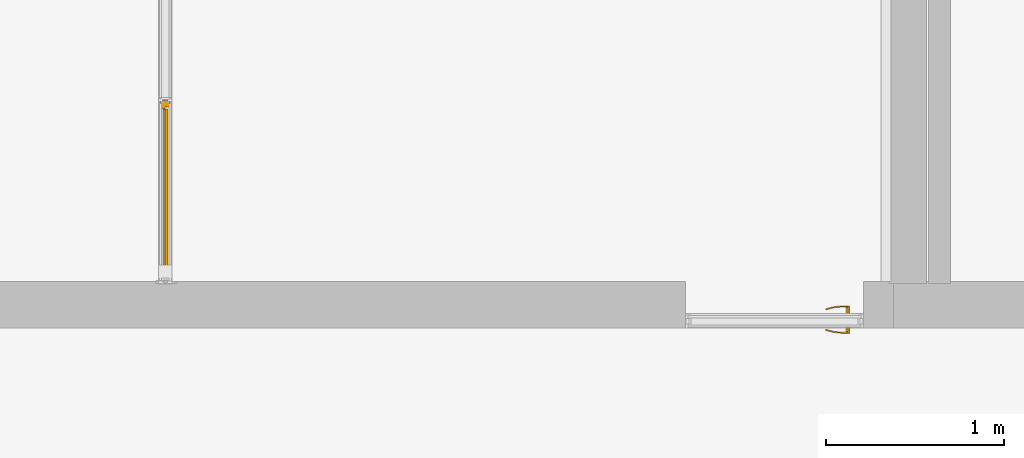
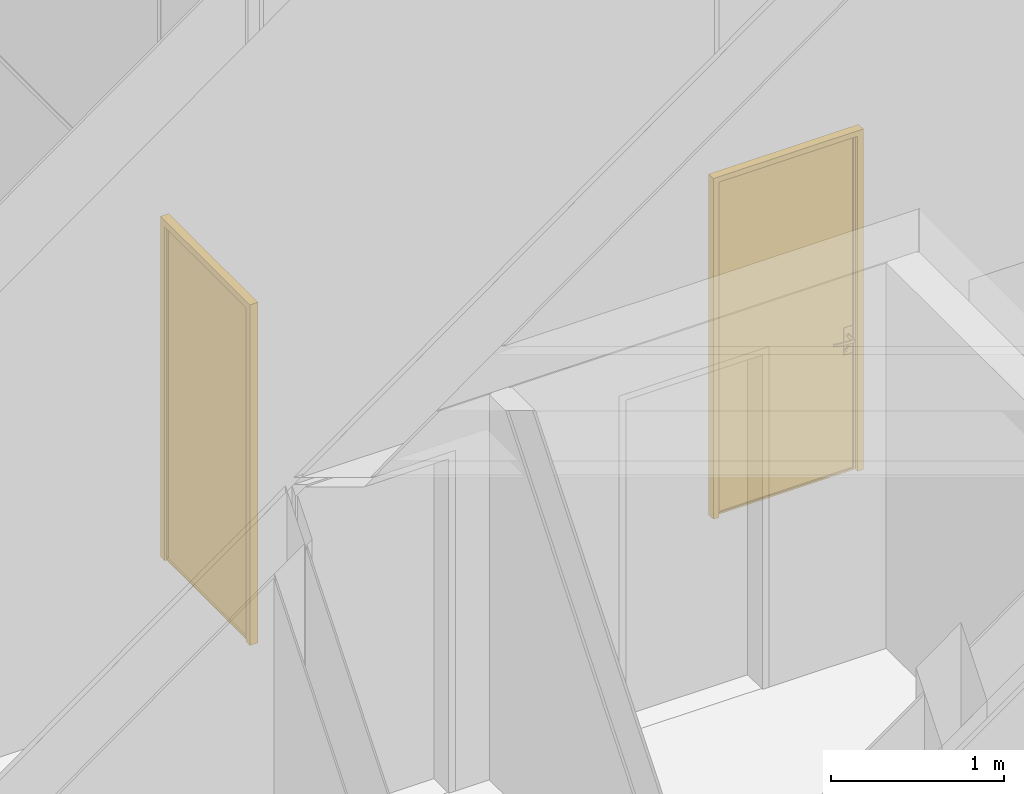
# One storey, part 161 of 246: 2 doors, 2 elements without a shape of their own.
"""IFC2X3 building model written with IfcOpenShell, lengths in millimetres."""

from ifc_helpers import new_model, entity, si_unit, converted_unit, derived_unit, money_unit, direction, frame, origin_with_axes, place, context, subcontext, project, spatial, open_shell, faceted_brep, surface_model, material, material_list, type_object, element, aggregate, save


model = new_model("IFC2X3")

# Units and contexts
model_context = context("Model", 3, precision=0.01, world=origin_with_axes(), true_north=direction((0.0, 1.0)))
body_context = subcontext(model_context, "Body", "Model", "MODEL_VIEW")
ifc_project = project(units=[si_unit("LENGTHUNIT", "METRE", prefix="MILLI"), si_unit("AREAUNIT", "SQUARE_METRE"), si_unit("VOLUMEUNIT", "CUBIC_METRE"), converted_unit("PLANEANGLEUNIT", "DEGREE", entity("IfcPlaneAngleMeasure", 0.0174532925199), si_unit("PLANEANGLEUNIT", "RADIAN"), dimensions=[0, 0, 0, 0, 0, 0, 0]), si_unit("SOLIDANGLEUNIT", "STERADIAN"), money_unit("EUR"), converted_unit("TIMEUNIT", "Year", entity("IfcTimeMeasure", 31556926.0), si_unit("TIMEUNIT", "SECOND"), dimensions=[0, 0, 1, 0, 0, 0, 0]), si_unit("MASSUNIT", "GRAM", prefix="KILO"), si_unit("THERMODYNAMICTEMPERATUREUNIT", "DEGREE_CELSIUS"), si_unit("LUMINOUSINTENSITYUNIT", "LUMEN"), si_unit("ENERGYUNIT", "JOULE", prefix="MEGA"), derived_unit("THERMALCONDUCTANCEUNIT", [(si_unit("POWERUNIT", "WATT"), 1), (si_unit("LENGTHUNIT", "METRE"), -1), (si_unit("THERMODYNAMICTEMPERATUREUNIT", "KELVIN"), -1)]), derived_unit("SPECIFICHEATCAPACITYUNIT", [(si_unit("ENERGYUNIT", "JOULE"), 1), (si_unit("MASSUNIT", "GRAM", prefix="KILO"), -1), (si_unit("THERMODYNAMICTEMPERATUREUNIT", "KELVIN"), -1)]), derived_unit("MASSDENSITYUNIT", [(si_unit("MASSUNIT", "GRAM", prefix="KILO"), 1), (si_unit("VOLUMEUNIT", "CUBIC_METRE"), -1)])], contexts=[model_context])

# Site, building, storey
site_placement = place(None, origin_with_axes())
site = spatial("IfcSite", under=ifc_project, at=site_placement, Name="L.Koidula tn 11b", CompositionType="ELEMENT")
building_placement = place(site_placement, origin_with_axes())
building = spatial("IfcBuilding", under=site, at=building_placement, Name="Rakvere Riigigümnaasium", CompositionType="ELEMENT")
storey_placement = place(building_placement, origin_with_axes())
storey = spatial("IfcBuildingStorey", under=building, at=storey_placement, Name="1.korrus 0,00", CompositionType="ELEMENT", Elevation=0.0)

# Curtain wall, door
curtain_wall_type = type_object("IfcCurtainWallType", Name="Curtain Wall Type", PredefinedType="NOTDEFINED")
curtain_wall_1_placement = place(storey_placement, frame((36265.0251025, 61372.4546496, -0.000126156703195), z_axis=(0.0, 0.0, 1.0), x_axis=(1.0, 0.0, 0.0)))
curtain_wall_1 = element("IfcCurtainWall", 1, at=curtain_wall_1_placement, inside=storey, type_object=curtain_wall_type, Name="SKLF-03")
ifc_material_1 = material(Name="Alumiiniumprofiil")
ifc_material_2 = material(Name="VKR-05_Klaas")
ifc_material_3 = material(Name="ET-07_Teras - Roostevaba")
ifc_material_list_1 = material_list([ifc_material_1, ifc_material_2, ifc_material_3])
door_style_1 = type_object("IfcDoorStyle", Name="Siseklaasfassaad - Klaasuks-Doubleline 1000 x 2385 x -38", ConstructionType="NOTDEFINED", OperationType="NOTDEFINED", ParameterTakesPrecedence=False, Sizeable=False)
door_1_placement = place(curtain_wall_1_placement, frame((0.0, 0.0, 1200.00005437), z_axis=(0.0, 0.0, 1.0), x_axis=(-1.0, 0.0, 0.0)))
door_1 = element("IfcDoor", 2, at=door_1_placement, type_object=door_style_1, material=ifc_material_list_1, Name="Panel-Siseklaasf-002", ObjectType="DOOR", context=body_context, shape_type="SurfaceModel", body=[
    faceted_brep([(-500.0, -35.0, -1200.00005437), (-500.0, -35.0, 1200.00005437), (-500.0, -21.0, 1200.00005437), (-500.0, -21.0, -1200.00005437), (-454.0, -35.0, -1200.00005437), (-454.0, -35.0, 1154.00005437), (-454.0, -21.0, 1154.00005437), (-454.0, -21.0, -1200.00005437)], [[[0, 1, 2, 3]], [[0, 4, 5, 1]], [[1, 5, 6, 2]], [[3, 2, 6, 7]], [[4, 0, 3, 7]], [[5, 4, 7, 6]]]),
    faceted_brep([(500.0, -35.0, 1200.00005437), (454.0, -35.0, 1154.00005437), (454.0, -21.0, 1154.00005437), (500.0, -21.0, 1200.00005437), (-500.0, -35.0, 1200.00005437), (-454.0, -35.0, 1154.00005437), (-454.0, -21.0, 1154.00005437), (-500.0, -21.0, 1200.00005437)], [[[0, 1, 2, 3]], [[0, 4, 5, 1]], [[1, 5, 6, 2]], [[3, 2, 6, 7]], [[4, 0, 3, 7]], [[5, 4, 7, 6]]]),
    faceted_brep([(500.0, -35.0, -1200.00005437), (454.0, -35.0, -1200.00005437), (454.0, -21.0, -1200.00005437), (500.0, -21.0, -1200.00005437), (500.0, -35.0, 1200.00005437), (454.0, -35.0, 1154.00005437), (454.0, -21.0, 1154.00005437), (500.0, -21.0, 1200.00005437)], [[[0, 1, 2, 3]], [[0, 4, 5, 1]], [[1, 5, 6, 2]], [[3, 2, 6, 7]], [[4, 0, 3, 7]], [[5, 4, 7, 6]]]),
    faceted_brep([(-500.0, -21.0, -1200.00005437), (-500.0, -21.0, 1200.00005437), (-500.0, 19.0, 1200.00005437), (-500.0, 19.0, -1200.00005437), (-462.0, -21.0, -1200.00005437), (-462.0, -21.0, 1162.00005437), (-462.0, 19.0, 1162.00005437), (-462.0, 19.0, -1200.00005437)], [[[0, 1, 2, 3]], [[0, 4, 5, 1]], [[1, 5, 6, 2]], [[3, 2, 6, 7]], [[4, 0, 3, 7]], [[5, 4, 7, 6]]]),
    faceted_brep([(500.0, -21.0, 1200.00005437), (462.0, -21.0, 1162.00005437), (462.0, 19.0, 1162.00005437), (500.0, 19.0, 1200.00005437), (-500.0, -21.0, 1200.00005437), (-462.0, -21.0, 1162.00005437), (-462.0, 19.0, 1162.00005437), (-500.0, 19.0, 1200.00005437)], [[[0, 1, 2, 3]], [[0, 4, 5, 1]], [[1, 5, 6, 2]], [[3, 2, 6, 7]], [[4, 0, 3, 7]], [[5, 4, 7, 6]]]),
    faceted_brep([(500.0, -21.0, -1200.00005437), (462.0, -21.0, -1200.00005437), (462.0, 19.0, -1200.00005437), (500.0, 19.0, -1200.00005437), (500.0, -21.0, 1200.00005437), (462.0, -21.0, 1162.00005437), (462.0, 19.0, 1162.00005437), (500.0, 19.0, 1200.00005437)], [[[0, 1, 2, 3]], [[0, 4, 5, 1]], [[1, 5, 6, 2]], [[3, 2, 6, 7]], [[4, 0, 3, 7]], [[5, 4, 7, 6]]]),
    faceted_brep([(-500.0, -19.0, 1200.00005437), (500.0, -19.0, 1200.00005437), (500.0, 19.0, 1200.00005437), (-500.0, 19.0, 1200.00005437), (-500.000009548, -19.0, 1185.00005369), (500.0, -19.0, 1185.00005369), (500.0, 19.0, 1185.00005369), (-500.000009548, 19.0, 1185.00005369)], [[[0, 1, 2, 3]], [[0, 4, 5, 1]], [[1, 5, 6, 2]], [[3, 2, 6, 7]], [[4, 0, 3, 7]], [[5, 4, 7, 6]]]),
    faceted_brep([(450.0, -21.0, -1188.00005437), (450.0, -21.0, 1150.00005437), (450.0, -9.0, 1150.00005437), (450.0, -9.0, -1188.00005437), (462.0, -21.0, -1200.00005437), (462.0, -21.0, 1162.00005437), (462.0, -9.0, 1162.00005437), (462.0, -9.0, -1200.00005437)], [[[0, 1, 2, 3]], [[0, 4, 5, 1]], [[1, 5, 6, 2]], [[3, 2, 6, 7]], [[4, 0, 3, 7]], [[5, 4, 7, 6]]]),
    faceted_brep([(-462.0, -21.0, -1200.00005437), (-462.0, -21.0, 1162.00005437), (-462.0, -9.0, 1162.00005437), (-462.0, -9.0, -1200.00005437), (-450.0, -21.0, -1188.00005437), (-450.0, -21.0, 1150.00005437), (-450.0, -9.0, 1150.00005437), (-450.0, -9.0, -1188.00005437)], [[[0, 1, 2, 3]], [[0, 4, 5, 1]], [[1, 5, 6, 2]], [[3, 2, 6, 7]], [[4, 0, 3, 7]], [[5, 4, 7, 6]]]),
    faceted_brep([(-462.0, -21.0, -1200.00005437), (-450.0, -21.0, -1188.00005437), (-450.0, -9.0, -1188.00005437), (-462.0, -9.0, -1200.00005437), (462.0, -21.0, -1200.00005437), (450.0, -21.0, -1188.00005437), (450.0, -9.0, -1188.00005437), (462.0, -9.0, -1200.00005437)], [[[0, 1, 2, 3]], [[0, 4, 5, 1]], [[1, 5, 6, 2]], [[3, 2, 6, 7]], [[4, 0, 3, 7]], [[5, 4, 7, 6]]]),
    faceted_brep([(462.0, -21.0, 1162.00005437), (450.0, -21.0, 1150.00005437), (450.0, -9.0, 1150.00005437), (462.0, -9.0, 1162.00005437), (-462.0, -21.0, 1162.00005437), (-450.0, -21.0, 1150.00005437), (-450.0, -9.0, 1150.00005437), (-462.0, -9.0, 1162.00005437)], [[[0, 1, 2, 3]], [[0, 4, 5, 1]], [[1, 5, 6, 2]], [[3, 2, 6, 7]], [[4, 0, 3, 7]], [[5, 4, 7, 6]]]),
    faceted_brep([(450.0, -35.0, -1188.00005437), (-450.0, -35.0, -1188.00005437), (-450.0, -19.0, -1188.00005437), (450.0, -19.0, -1188.00005437), (450.0, -35.0, 1150.00005437), (-450.0, -35.0, 1150.00005437), (-450.0, -19.0, 1150.00005437), (450.0, -19.0, 1150.00005437)], [[[0, 1, 2, 3]], [[0, 4, 5, 1]], [[1, 5, 6, 2]], [[3, 2, 6, 7]], [[4, 0, 3, 7]], [[5, 4, 7, 6]]]),
    faceted_brep([(-440.5, -9.0, -178.000054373), (-383.5, -9.0, -178.000054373), (-383.5, -6.0, -178.000054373), (-440.5, -6.0, -178.000054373), (-440.5, -9.0, -368.000054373), (-383.5, -9.0, -368.000054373), (-383.5, -6.0, -368.000054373), (-440.5, -6.0, -368.000054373)], [[[0, 1, 2, 3]], [[0, 4, 5, 1]], [[1, 5, 6, 2]], [[3, 2, 6, 7]], [[4, 0, 3, 7]], [[5, 4, 7, 6]]]),
    surface_model("IfcShellBasedSurfaceModel", [(-412.0, 55.0, -248.000054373), (-420.660254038, 55.0, -243.000054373), (-420.660254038, 62.0, -243.000054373), (-412.0, 62.0, -248.000054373), (-387.0, 55.0, -248.000054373), (-387.0, 55.0, -228.000054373), (-412.0, 55.0, -228.000054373), (-420.660254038, 55.0, -233.000054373), (-420.660254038, 62.0, -233.000054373), (-412.0, 62.0, -228.000054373), (-387.0, 62.0, -228.000054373), (-387.0, 62.0, -248.000054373)], [open_shell([[[0, 1, 2, 3]], [[0, 4, 5, 6, 7, 1]], [[1, 7, 8, 2]], [[3, 2, 8, 9, 10, 11]], [[4, 0, 3, 11]], [[6, 5, 10, 9]], [[7, 6, 9, 8]]])]),
    surface_model("IfcShellBasedSurfaceModel", [(-387.0, 55.0, -228.000054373), (-373.901717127, 55.0, -228.392753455), (-373.596090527, 62.0, -228.392753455), (-387.0, 55.0, -248.000054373), (-373.901717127, 55.0, -247.607355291), (-346.890283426, 59.6635446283, -229.178151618), (-387.0, 62.0, -228.000054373), (-387.0, 62.0, -248.000054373), (-347.804837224, 52.716818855, -246.821957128), (-347.804837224, 52.716818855, -229.178151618), (-346.890283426, 59.6635446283, -246.821957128), (-373.596090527, 62.0, -247.607355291), (-322.006256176, 48.1678329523, -246.036558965), (-322.006256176, 48.1678329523, -229.963549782), (-320.489735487, 55.0084157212, -229.963549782), (-320.489735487, 55.0084157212, -246.036558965), (-296.702316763, 41.3876628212, -245.251160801), (-296.702316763, 41.3876628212, -230.748947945), (-294.59537082, 48.0700416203, -230.748947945), (-294.59537082, 48.0700416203, -245.251160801), (-288.829442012, 38.5221707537, -245.000054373), (-288.829442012, 38.5221707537, -231.000054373), (-286.538795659, 45.1376880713, -231.000054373), (-286.538795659, 45.1376880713, -245.000054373)], [open_shell([[[0, 1, 2]], [[0, 3, 4, 1]], [[1, 5, 2]], [[0, 2, 6]], [[4, 3, 7]], [[1, 4, 8, 9]], [[1, 9, 5]], [[2, 5, 10, 11]], [[6, 2, 11, 7]], [[4, 7, 11]], [[8, 4, 11]], [[9, 8, 12, 13]], [[9, 14, 5]], [[5, 14, 15, 10]], [[8, 11, 10]], [[12, 8, 10]], [[13, 12, 16, 17]], [[9, 13, 14]], [[14, 18, 19, 15]], [[12, 10, 15]], [[16, 12, 15]], [[17, 16, 20, 21]], [[13, 17, 18]], [[13, 18, 14]], [[18, 22, 23, 19]], [[16, 15, 19]], [[20, 16, 19]], [[21, 20, 23, 22]], [[17, 21, 22]], [[17, 22, 18]], [[20, 19, 23]]])]),
    faceted_brep([(-408.291796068, 4.0, -249.412732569), (-400.0, 4.0, -238.000054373), (-399.0, -6.0, -238.000054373), (-407.982779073, -6.0, -250.363789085), (-421.708203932, 4.0, -245.053477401), (-421.708203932, 4.0, -230.946631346), (-408.291796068, 4.0, -226.587376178), (-407.982779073, -6.0, -225.636319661), (-422.517220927, -6.0, -230.358846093), (-422.517220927, -6.0, -245.641262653)], [[[0, 1, 2, 3]], [[1, 0, 4, 5, 6]], [[1, 6, 7, 2]], [[2, 7, 8, 9, 3]], [[4, 0, 3, 9]], [[5, 4, 9, 8]], [[6, 5, 8, 7]]]),
    faceted_brep([(-405.819660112, -2.0, -352.021184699), (-392.0, -2.0, -333.000054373), (-390.0, -6.0, -333.000054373), (-405.201626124, -6.0, -353.923297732), (-428.180339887, -2.0, -344.755759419), (-428.180339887, -2.0, -321.244349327), (-405.819660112, -2.0, -313.978924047), (-405.201626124, -6.0, -312.076811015), (-429.798373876, -6.0, -320.068778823), (-429.798373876, -6.0, -345.931329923)], [[[0, 1, 2, 3]], [[1, 0, 4, 5, 6]], [[1, 6, 7, 2]], [[2, 7, 8, 9, 3]], [[4, 0, 3, 9]], [[5, 4, 9, 8]], [[6, 5, 8, 7]]]),
    faceted_brep([(-409.836881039, 0.0, -330.657449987), (-405.0, 0.0, -324.000054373), (-404.0, -2.0, -324.000054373), (-409.527864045, -2.0, -331.608506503), (-417.663118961, 0.0, -328.114551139), (-417.663118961, 0.0, -319.885557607), (-409.836881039, 0.0, -317.342658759), (-409.527864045, -2.0, -316.391602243), (-418.472135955, -2.0, -319.297772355), (-418.472135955, -2.0, -328.702336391)], [[[0, 1, 2, 3]], [[1, 0, 4, 5, 6]], [[1, 6, 7, 2]], [[2, 7, 8, 9, 3]], [[4, 0, 3, 9]], [[5, 4, 9, 8]], [[6, 5, 8, 7]]]),
    faceted_brep([(-412.0, 4.0, -228.000054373), (-402.489434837, 4.0, -234.909884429), (-402.489434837, 55.0, -234.909884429), (-412.0, 55.0, -228.000054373), (-421.510565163, 4.0, -234.909884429), (-417.877852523, 4.0, -246.090224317), (-406.122147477, 4.0, -246.090224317), (-406.122147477, 55.0, -246.090224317), (-417.877852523, 55.0, -246.090224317), (-421.510565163, 55.0, -234.909884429)], [[[0, 1, 2, 3]], [[0, 4, 5, 6, 1]], [[1, 6, 7, 2]], [[3, 2, 7, 8, 9]], [[4, 0, 3, 9]], [[5, 4, 9, 8]], [[6, 5, 8, 7]]]),
    faceted_brep([(-440.5, -21.0, -178.000054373), (-440.5, -24.0, -178.000054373), (-383.5, -24.0, -178.000054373), (-383.5, -21.0, -178.000054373), (-440.5, -21.0, -368.000054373), (-440.5, -24.0, -368.000054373), (-383.5, -24.0, -368.000054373), (-383.5, -21.0, -368.000054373)], [[[0, 1, 2, 3]], [[4, 5, 1, 0]], [[1, 5, 6, 2]], [[3, 2, 6, 7]], [[0, 3, 7, 4]], [[7, 6, 5, 4]]]),
    surface_model("IfcShellBasedSurfaceModel", [(-412.0, -85.0, -248.000054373), (-412.0, -92.0, -248.000054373), (-420.660254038, -92.0, -243.000054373), (-420.660254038, -85.0, -243.000054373), (-387.0, -85.0, -248.000054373), (-387.0, -92.0, -248.000054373), (-387.0, -92.0, -228.000054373), (-412.0, -92.0, -228.000054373), (-420.660254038, -92.0, -233.000054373), (-420.660254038, -85.0, -233.000054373), (-412.0, -85.0, -228.000054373), (-387.0, -85.0, -228.000054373)], [open_shell([[[0, 1, 2, 3]], [[4, 5, 1, 0]], [[1, 5, 6, 7, 8, 2]], [[3, 2, 8, 9]], [[0, 3, 9, 10, 11, 4]], [[10, 7, 6, 11]], [[9, 8, 7, 10]]])]),
    surface_model("IfcShellBasedSurfaceModel", [(-387.0, -85.0, -228.000054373), (-373.596090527, -92.0, -228.392753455), (-373.901717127, -85.0, -228.392753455), (-387.0, -92.0, -228.000054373), (-346.890283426, -89.6635446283, -229.178151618), (-373.901717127, -85.0, -247.607355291), (-387.0, -85.0, -248.000054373), (-387.0, -92.0, -248.000054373), (-373.596090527, -92.0, -247.607355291), (-346.890283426, -89.6635446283, -246.821957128), (-347.804837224, -82.716818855, -229.178151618), (-347.804837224, -82.716818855, -246.821957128), (-320.489735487, -85.0084157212, -246.036558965), (-320.489735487, -85.0084157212, -229.963549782), (-322.006256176, -78.1678329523, -229.963549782), (-322.006256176, -78.1678329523, -246.036558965), (-294.59537082, -78.0700416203, -245.251160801), (-294.59537082, -78.0700416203, -230.748947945), (-296.702316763, -71.3876628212, -230.748947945), (-296.702316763, -71.3876628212, -245.251160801), (-286.538795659, -75.1376880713, -245.000054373), (-286.538795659, -75.1376880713, -231.000054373), (-288.829442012, -68.5221707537, -231.000054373), (-288.829442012, -68.5221707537, -245.000054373)], [open_shell([[[0, 1, 2]], [[0, 3, 1]], [[2, 1, 4]], [[0, 2, 5, 6]], [[3, 7, 8, 1]], [[1, 8, 9, 4]], [[2, 4, 10]], [[2, 10, 11, 5]], [[5, 7, 6]], [[5, 8, 7]], [[11, 9, 8]], [[4, 9, 12, 13]], [[10, 4, 13]], [[10, 14, 15, 11]], [[11, 8, 5]], [[15, 9, 11]], [[15, 12, 9]], [[13, 12, 16, 17]], [[10, 13, 14]], [[14, 18, 19, 15]], [[19, 12, 15]], [[19, 16, 12]], [[17, 16, 20, 21]], [[14, 13, 17]], [[14, 17, 18]], [[18, 22, 23, 19]], [[23, 16, 19]], [[23, 20, 16]], [[22, 21, 20, 23]], [[18, 17, 21]], [[18, 21, 22]]])]),
    faceted_brep([(-408.291796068, -34.0, -249.412732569), (-407.982779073, -24.0, -250.363789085), (-399.0, -24.0, -238.000054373), (-400.0, -34.0, -238.000054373), (-421.708203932, -34.0, -245.053477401), (-422.517220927, -24.0, -245.641262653), (-422.517220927, -24.0, -230.358846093), (-407.982779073, -24.0, -225.636319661), (-408.291796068, -34.0, -226.587376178), (-421.708203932, -34.0, -230.946631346)], [[[0, 1, 2, 3]], [[4, 5, 1, 0]], [[2, 1, 5, 6, 7]], [[3, 2, 7, 8]], [[3, 8, 9, 4, 0]], [[9, 6, 5, 4]], [[8, 7, 6, 9]]]),
    faceted_brep([(-405.819660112, -28.0, -352.021184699), (-405.201626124, -24.0, -353.923297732), (-390.0, -24.0, -333.000054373), (-392.0, -28.0, -333.000054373), (-428.180339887, -28.0, -344.755759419), (-429.798373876, -24.0, -345.931329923), (-429.798373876, -24.0, -320.068778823), (-405.201626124, -24.0, -312.076811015), (-405.819660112, -28.0, -313.978924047), (-428.180339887, -28.0, -321.244349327)], [[[0, 1, 2, 3]], [[4, 5, 1, 0]], [[2, 1, 5, 6, 7]], [[3, 2, 7, 8]], [[3, 8, 9, 4, 0]], [[9, 6, 5, 4]], [[8, 7, 6, 9]]]),
    faceted_brep([(-409.836881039, -30.0, -330.657449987), (-409.527864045, -28.0, -331.608506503), (-404.0, -28.0, -324.000054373), (-405.0, -30.0, -324.000054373), (-417.663118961, -30.0, -328.114551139), (-418.472135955, -28.0, -328.702336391), (-418.472135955, -28.0, -319.297772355), (-409.527864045, -28.0, -316.391602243), (-409.836881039, -30.0, -317.342658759), (-417.663118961, -30.0, -319.885557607)], [[[0, 1, 2, 3]], [[4, 5, 1, 0]], [[2, 1, 5, 6, 7]], [[3, 2, 7, 8]], [[3, 8, 9, 4, 0]], [[9, 6, 5, 4]], [[8, 7, 6, 9]]]),
    faceted_brep([(-412.0, -34.0, -228.000054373), (-412.0, -85.0, -228.000054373), (-402.489434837, -85.0, -234.909884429), (-402.489434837, -34.0, -234.909884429), (-421.510565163, -34.0, -234.909884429), (-421.510565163, -85.0, -234.909884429), (-417.877852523, -85.0, -246.090224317), (-406.122147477, -85.0, -246.090224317), (-406.122147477, -34.0, -246.090224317), (-417.877852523, -34.0, -246.090224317)], [[[0, 1, 2, 3]], [[4, 5, 1, 0]], [[1, 5, 6, 7, 2]], [[3, 2, 7, 8]], [[0, 3, 8, 9, 4]], [[9, 6, 5, 4]], [[8, 7, 6, 9]]]),
])
aggregate(curtain_wall_1, [door_1])

curtain_wall_2_placement = place(storey_placement, frame((32835.0202258, 67589.2016838, 0.0), z_axis=(0.0, 0.0, 1.0), x_axis=(1.0, 0.0, 0.0)))
curtain_wall_2 = element("IfcCurtainWall", 3, at=curtain_wall_2_placement, inside=storey, type_object=curtain_wall_type, Name="SKLF-02")
ifc_material_list_2 = material_list([ifc_material_1, ifc_material_2])
door_style_2 = type_object("IfcDoorStyle", Name="1030 x 2385 x -5", ConstructionType="NOTDEFINED", OperationType="NOTDEFINED", ParameterTakesPrecedence=False, Sizeable=False)
door_2_placement = place(curtain_wall_2_placement, frame((0.0, -5483.75, 1200.0), z_axis=(0.0, 0.0, 1.0), x_axis=(0.0, 1.0, 0.0)))
door_2 = element("IfcDoor", 4, at=door_2_placement, type_object=door_style_2, material=ifc_material_list_2, Name="Panel-Siseklaasf-002", ObjectType="DOOR", context=body_context, shape_type="Brep", body=[
    faceted_brep([(-515.0, 7.5, -1200.0), (-515.0, 7.5, 1200.0), (-515.0, 21.5, 1200.0), (-515.0, 21.5, -1200.0), (-469.0, 7.5, -1200.0), (-469.0, 7.5, 1154.0), (-469.0, 21.5, 1154.0), (-469.0, 21.5, -1200.0)], [[[0, 1, 2, 3]], [[0, 4, 5, 1]], [[1, 5, 6, 2]], [[3, 2, 6, 7]], [[4, 0, 3, 7]], [[5, 4, 7, 6]]]),
    faceted_brep([(515.0, 7.5, 1200.0), (469.0, 7.5, 1154.0), (469.0, 21.5, 1154.0), (515.0, 21.5, 1200.0), (-515.0, 7.5, 1200.0), (-469.0, 7.5, 1154.0), (-469.0, 21.5, 1154.0), (-515.0, 21.5, 1200.0)], [[[0, 1, 2, 3]], [[0, 4, 5, 1]], [[1, 5, 6, 2]], [[3, 2, 6, 7]], [[4, 0, 3, 7]], [[5, 4, 7, 6]]]),
    faceted_brep([(515.0, 7.5, -1200.0), (469.0, 7.5, -1200.0), (469.0, 21.5, -1200.0), (515.0, 21.5, -1200.0), (515.0, 7.5, 1200.0), (469.0, 7.5, 1154.0), (469.0, 21.5, 1154.0), (515.0, 21.5, 1200.0)], [[[0, 1, 2, 3]], [[0, 4, 5, 1]], [[1, 5, 6, 2]], [[3, 2, 6, 7]], [[4, 0, 3, 7]], [[5, 4, 7, 6]]]),
    faceted_brep([(-515.0, -32.5, -1200.0), (-515.0, -32.5, 1200.0), (-515.0, 7.5, 1200.0), (-515.0, 7.5, -1200.0), (-477.0, -32.5, -1200.0), (-477.0, -32.5, 1162.0), (-477.0, 7.5, 1162.0), (-477.0, 7.5, -1200.0)], [[[0, 1, 2, 3]], [[0, 4, 5, 1]], [[1, 5, 6, 2]], [[3, 2, 6, 7]], [[4, 0, 3, 7]], [[5, 4, 7, 6]]]),
    faceted_brep([(515.0, -32.5, 1200.0), (477.0, -32.5, 1162.0), (477.0, 7.5, 1162.0), (515.0, 7.5, 1200.0), (-515.0, -32.5, 1200.0), (-477.0, -32.5, 1162.0), (-477.0, 7.5, 1162.0), (-515.0, 7.5, 1200.0)], [[[0, 1, 2, 3]], [[0, 4, 5, 1]], [[1, 5, 6, 2]], [[3, 2, 6, 7]], [[4, 0, 3, 7]], [[5, 4, 7, 6]]]),
    faceted_brep([(515.0, -32.5, -1200.0), (477.0, -32.5, -1200.0), (477.0, 7.5, -1200.0), (515.0, 7.5, -1200.0), (515.0, -32.5, 1200.0), (477.0, -32.5, 1162.0), (477.0, 7.5, 1162.0), (515.0, 7.5, 1200.0)], [[[0, 1, 2, 3]], [[0, 4, 5, 1]], [[1, 5, 6, 2]], [[3, 2, 6, 7]], [[4, 0, 3, 7]], [[5, 4, 7, 6]]]),
    faceted_brep([(-515.0, -2.5, 1200.0), (515.0, -2.5, 1200.0), (515.0, 2.5, 1200.0), (-515.0, 2.5, 1200.0), (-515.0, -2.5, 1185.0), (515.0, -2.5, 1185.0), (515.0, 2.5, 1185.0), (-515.0, 2.5, 1185.0)], [[[0, 1, 2, 3]], [[0, 4, 5, 1]], [[1, 5, 6, 2]], [[3, 2, 6, 7]], [[4, 0, 3, 7]], [[5, 4, 7, 6]]]),
    faceted_brep([(465.0, 7.5, -1188.0), (465.0, -4.5, -1188.0), (465.0, -4.5, 1150.0), (465.0, 7.5, 1150.0), (477.0, 7.5, -1200.0), (477.0, -4.5, -1200.0), (477.0, -4.5, 1162.0), (477.0, 7.5, 1162.0)], [[[0, 1, 2, 3]], [[4, 5, 1, 0]], [[1, 5, 6, 2]], [[3, 2, 6, 7]], [[0, 3, 7, 4]], [[7, 6, 5, 4]]]),
    faceted_brep([(-477.0, 7.5, -1200.0), (-477.0, -4.5, -1200.0), (-477.0, -4.5, 1162.0), (-477.0, 7.5, 1162.0), (-465.0, 7.5, -1188.0), (-465.0, -4.5, -1188.0), (-465.0, -4.5, 1150.0), (-465.0, 7.5, 1150.0)], [[[0, 1, 2, 3]], [[4, 5, 1, 0]], [[1, 5, 6, 2]], [[3, 2, 6, 7]], [[0, 3, 7, 4]], [[7, 6, 5, 4]]]),
    faceted_brep([(-477.0, 7.5, -1200.0), (-477.0, -4.5, -1200.0), (-465.0, -4.5, -1188.0), (-465.0, 7.5, -1188.0), (477.0, 7.5, -1200.0), (477.0, -4.5, -1200.0), (465.0, -4.5, -1188.0), (465.0, 7.5, -1188.0)], [[[0, 1, 2, 3]], [[4, 5, 1, 0]], [[1, 5, 6, 2]], [[3, 2, 6, 7]], [[0, 3, 7, 4]], [[7, 6, 5, 4]]]),
    faceted_brep([(477.0, 7.5, 1162.0), (477.0, -4.5, 1162.0), (465.0, -4.5, 1150.0), (465.0, 7.5, 1150.0), (-477.0, 7.5, 1162.0), (-477.0, -4.5, 1162.0), (-465.0, -4.5, 1150.0), (-465.0, 7.5, 1150.0)], [[[0, 1, 2, 3]], [[4, 5, 1, 0]], [[1, 5, 6, 2]], [[3, 2, 6, 7]], [[0, 3, 7, 4]], [[7, 6, 5, 4]]]),
    faceted_brep([(465.0, -2.5, -1188.0), (465.0, -18.5, -1188.0), (-465.0, -18.5, -1188.0), (-465.0, -2.5, -1188.0), (465.0, -2.5, 1150.0), (465.0, -18.5, 1150.0), (-465.0, -18.5, 1150.0), (-465.0, -2.5, 1150.0)], [[[0, 1, 2, 3]], [[4, 5, 1, 0]], [[1, 5, 6, 2]], [[3, 2, 6, 7]], [[0, 3, 7, 4]], [[7, 6, 5, 4]]]),
])
aggregate(curtain_wall_2, [door_2])

save(model, "model.ifc")
